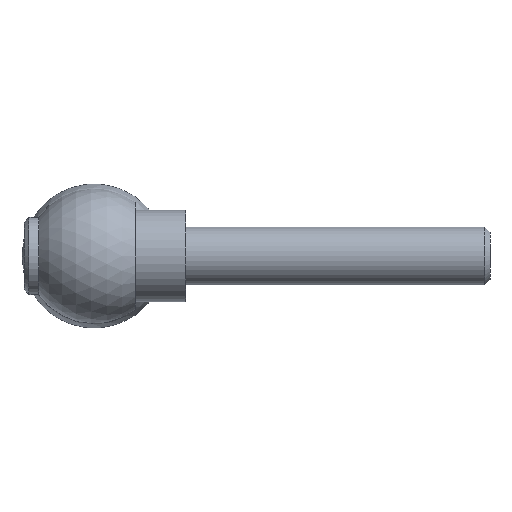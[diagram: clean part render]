
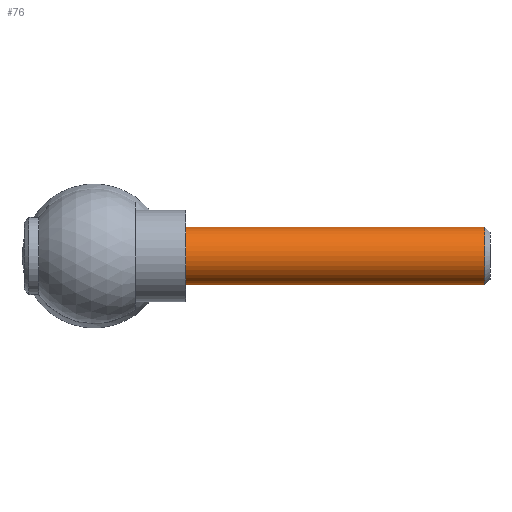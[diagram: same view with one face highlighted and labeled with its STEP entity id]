
A CAD part, left-side view. The second image highlights one B-rep face of the part: STEP entity #76.
In plain terms, the highlighted cylindrical face has radius 6 mm (diameter 12 mm), a full revolution.
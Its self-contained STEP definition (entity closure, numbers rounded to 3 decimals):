
#76 = ADVANCED_FACE( '', ( #92, #93 ), #94, .T. );
#92 = FACE_OUTER_BOUND( '', #130, .T. );
#93 = FACE_OUTER_BOUND( '', #131, .T. );
#94 = CYLINDRICAL_SURFACE( '', #132, 6. );
#130 = EDGE_LOOP( '', ( #170 ) );
#131 = EDGE_LOOP( '', ( #171 ) );
#132 = AXIS2_PLACEMENT_3D( '', #172, #173, #174 );
#170 = ORIENTED_EDGE( '', *, *, #230, .F. );
#171 = ORIENTED_EDGE( '', *, *, #231, .T. );
#172 = CARTESIAN_POINT( '', ( 0., -63., 0. ) );
#173 = DIRECTION( '', ( 0., 1., 0. ) );
#174 = DIRECTION( '', ( 1., 0., 0. ) );
#230 = EDGE_CURVE( '', #244, #244, #245, .T. );
#231 = EDGE_CURVE( '', #246, #246, #247, .T. );
#244 = VERTEX_POINT( '', #268 );
#245 = CIRCLE( '', #269, 6. );
#246 = VERTEX_POINT( '', #270 );
#247 = CIRCLE( '', #271, 6. );
#268 = CARTESIAN_POINT( '', ( 6., -61.927, 0. ) );
#269 = AXIS2_PLACEMENT_3D( '', #293, #294, #295 );
#270 = CARTESIAN_POINT( '', ( 6., 0., 0. ) );
#271 = AXIS2_PLACEMENT_3D( '', #296, #297, #298 );
#293 = CARTESIAN_POINT( '', ( 0., -61.927, 0. ) );
#294 = DIRECTION( '', ( 0., -1., 0. ) );
#295 = DIRECTION( '', ( 1., 0., 0. ) );
#296 = CARTESIAN_POINT( '', ( 0., 0., 0. ) );
#297 = DIRECTION( '', ( 0., -1., 0. ) );
#298 = DIRECTION( '', ( 1., 0., 0. ) );
